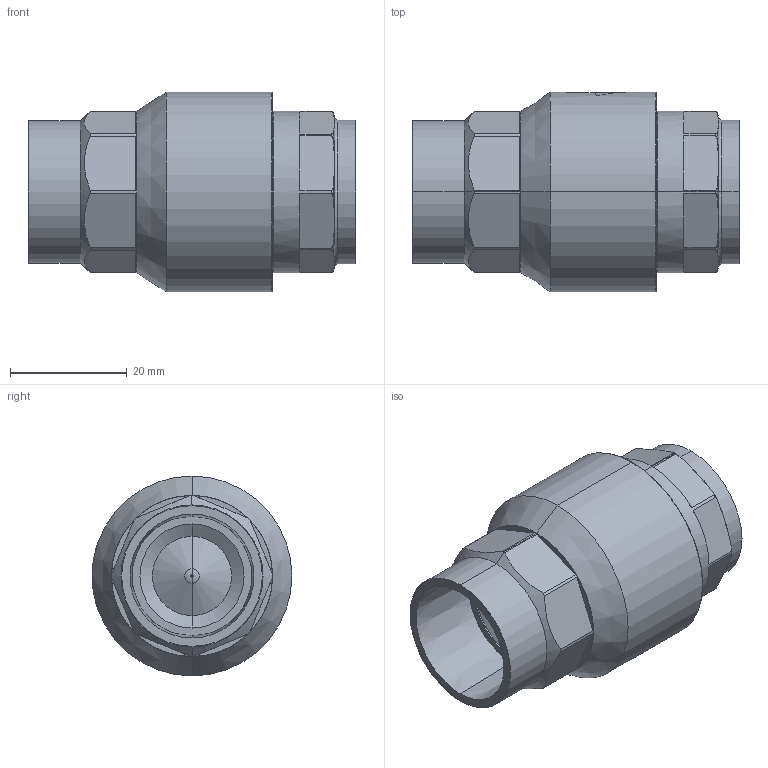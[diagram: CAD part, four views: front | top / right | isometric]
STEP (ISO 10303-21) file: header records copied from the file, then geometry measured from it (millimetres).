
FILE_DESCRIPTION (( 'STEP AP203' ), '1' );
FILE_NAME ('BC-4-BODY.STEP', '2021-01-05T17:15:29', ( '' ), ( '' ), 'SwSTEP 2.0', 'SolidWorks 2017', '' );
FILE_SCHEMA (( 'CONFIG_CONTROL_DESIGN' ));
Length unit declared in the file: inch
Products named in the file (2): BC-4-BODY
Bounding box: 56.13 x 34.29 x 34.29 mm (x, y, z)
Volume: 17602.3 mm3; surface area: 13274.7 mm2
Topology: 2 solids, 2 shells, 133 faces, 326 edges, 204 vertices
Faces by surface type: plane 50, cylinder 35, torus 23, cone 18, bspline 7
Entity records: 4731 total; most frequent: CARTESIAN_POINT 1423, DIRECTION 682, ORIENTED_EDGE 652, EDGE_CURVE 326, AXIS2_PLACEMENT_3D 281, VERTEX_POINT 204, CIRCLE 153, EDGE_LOOP 146
